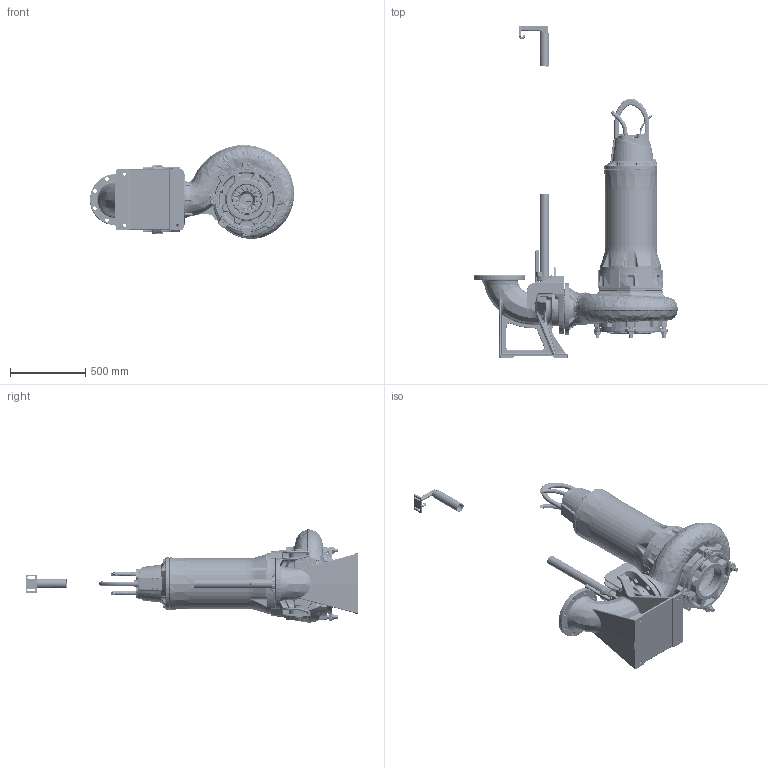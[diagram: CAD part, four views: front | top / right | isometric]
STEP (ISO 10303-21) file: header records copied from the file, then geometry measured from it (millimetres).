
FILE_DESCRIPTION (( 'STEP AP214' ), '1' );
FILE_NAME ('SE4 CFP 205J-CB2 Wet Well.STEP', '2020-09-21T14:49:00', ( '' ), ( '' ), 'SwSTEP 2.0', 'SolidWorks 2017', '' );
FILE_SCHEMA (( 'AUTOMOTIVE_DESIGN' ));
Length unit declared in the file: millimetre
Products named in the file (1): SE4 CFP 205J-CB2 Wet Well
Bounding box: 1353.1 x 2200 x 621.64 mm (x, y, z)
Volume: 68537630.3 mm3; surface area: 8580894.9 mm2
Topology: 52 solids, 52 shells, 7230 faces, 17731 edges, 10333 vertices
Faces by surface type: bspline 2342, cylinder 1734, plane 1352, cone 806, torus 721, sphere 275
Entity records: 467450 total; most frequent: CARTESIAN_POINT 236789, ORIENTED_EDGE 34472, DIRECTION 27791, EDGE_CURVE 17236, AXIS2_PLACEMENT_3D 11486, VERTEX_POINT 10316, EDGE_LOOP 7654, UNCERTAINTY_MEASURE_WITH_UNIT 7284
